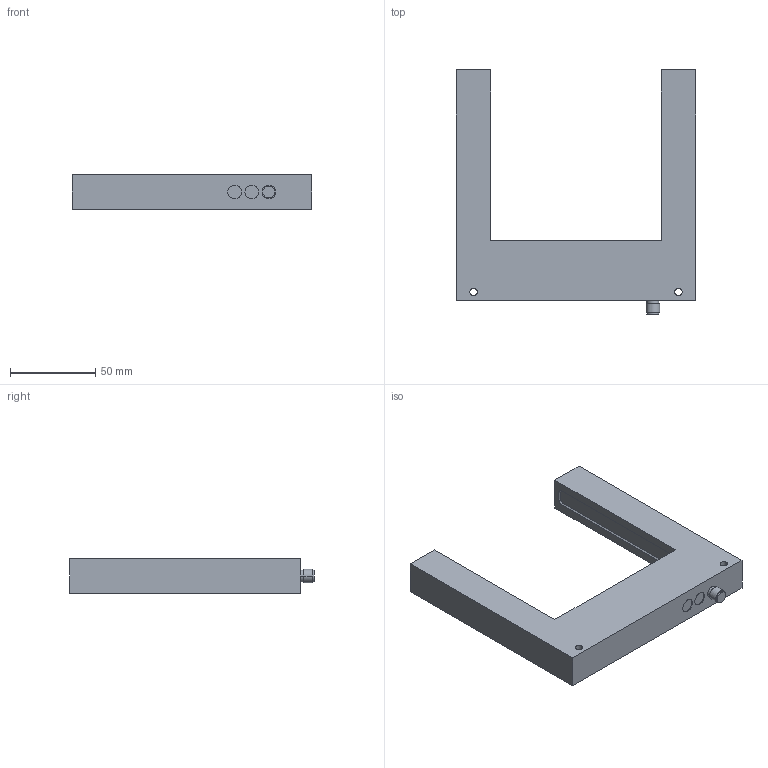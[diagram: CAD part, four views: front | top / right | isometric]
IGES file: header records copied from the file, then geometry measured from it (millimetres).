
Start section: IMSI TurboCAD v14.0
Global section: author: NULL; organization: NULL; date: 20141127.115416; units: millimetre
Bounding box: 140 x 143 x 20 mm (x, y, z)
Surface area: 33754.5 mm2 (no closed solid volume)
Topology: 0 solids, 0 shells, 59 faces, 288 edges, 288 vertices
Faces by surface type: revolution 30, extrusion 29
